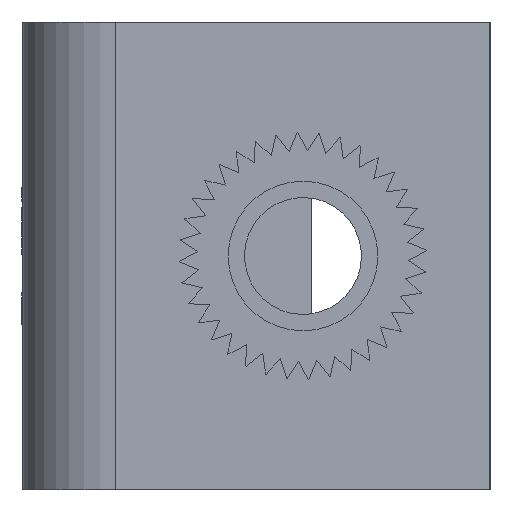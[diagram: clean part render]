
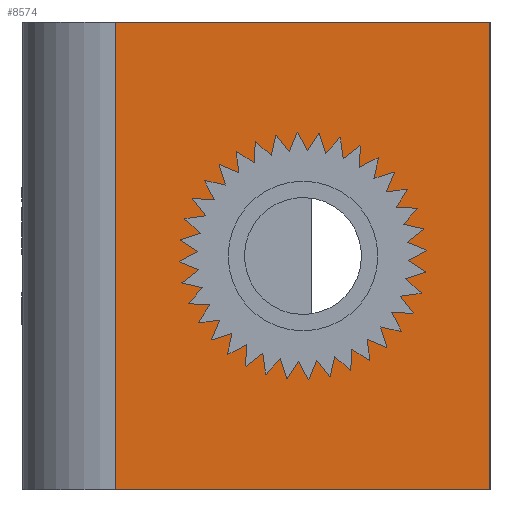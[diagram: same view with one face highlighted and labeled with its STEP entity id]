
A CAD part, left-side view. The second image highlights one B-rep face of the part: STEP entity #8574.
In plain terms, the highlighted planar face has unit normal (-1, 0, 0) as drawn and (1, 0, 0) by its records, which use the part's own axes.
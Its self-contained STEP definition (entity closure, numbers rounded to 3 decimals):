
#538 = VECTOR ( 'NONE', #6733, 1000. ) ;
#593 = LINE ( 'NONE', #8622, #5195 ) ;
#619 = AXIS2_PLACEMENT_3D ( 'NONE', #732, #3496, #7896 ) ;
#732 = CARTESIAN_POINT ( 'NONE',  ( 0., 6., 5. ) ) ;
#1110 = EDGE_LOOP ( 'NONE', ( #7832, #7541, #3333, #4967 ) ) ;
#1118 = CARTESIAN_POINT ( 'NONE',  ( 0., 6., 5. ) ) ;
#1179 = DIRECTION ( 'NONE',  ( 0., 0., -1. ) ) ;
#1220 = LINE ( 'NONE', #9236, #4892 ) ;
#1829 = CARTESIAN_POINT ( 'NONE',  ( 0., 2., 10. ) ) ;
#2133 = CARTESIAN_POINT ( 'NONE',  ( 0., 10., 10. ) ) ;
#2391 = LINE ( 'NONE', #3707, #538 ) ;
#2664 = FACE_OUTER_BOUND ( 'NONE', #1110, .T. ) ;
#2832 = EDGE_CURVE ( 'NONE', #5486, #3103, #3661, .T. ) ;
#2852 = CARTESIAN_POINT ( 'NONE',  ( 0., 6., 6.6 ) ) ;
#2876 = VERTEX_POINT ( 'NONE', #3683 ) ;
#2908 = EDGE_CURVE ( 'NONE', #3103, #5486, #6264, .T. ) ;
#2933 = EDGE_LOOP ( 'NONE', ( #3495, #8229 ) ) ;
#3103 = VERTEX_POINT ( 'NONE', #9091 ) ;
#3333 = ORIENTED_EDGE ( 'NONE', *, *, #5835, .F. ) ;
#3439 = VECTOR ( 'NONE', #5504, 1000. ) ;
#3495 = ORIENTED_EDGE ( 'NONE', *, *, #2908, .F. ) ;
#3496 = DIRECTION ( 'NONE',  ( 1., 0., 0. ) ) ;
#3661 = CIRCLE ( 'NONE', #5046, 1.6 ) ;
#3679 = VERTEX_POINT ( 'NONE', #2133 ) ;
#3683 = CARTESIAN_POINT ( 'NONE',  ( 0., 2., 0. ) ) ;
#3707 = CARTESIAN_POINT ( 'NONE',  ( 0., 0., 0. ) ) ;
#3800 = FACE_BOUND ( 'NONE', #2933, .T. ) ;
#3993 = DIRECTION ( 'NONE',  ( -1., 0., 0. ) ) ;
#4446 = EDGE_CURVE ( 'NONE', #5879, #2876, #7073, .T. ) ;
#4892 = VECTOR ( 'NONE', #1179, 1000. ) ;
#4967 = ORIENTED_EDGE ( 'NONE', *, *, #4446, .T. ) ;
#5046 = AXIS2_PLACEMENT_3D ( 'NONE', #1118, #5466, #8384 ) ;
#5071 = EDGE_CURVE ( 'NONE', #2876, #8148, #2391, .T. ) ;
#5195 = VECTOR ( 'NONE', #6332, 1000. ) ;
#5466 = DIRECTION ( 'NONE',  ( 1., 0., 0. ) ) ;
#5486 = VERTEX_POINT ( 'NONE', #2852 ) ;
#5504 = DIRECTION ( 'NONE',  ( 0., 0., -1. ) ) ;
#5835 = EDGE_CURVE ( 'NONE', #5879, #3679, #593, .T. ) ;
#5879 = VERTEX_POINT ( 'NONE', #7136 ) ;
#6264 = CIRCLE ( 'NONE', #619, 1.6 ) ;
#6332 = DIRECTION ( 'NONE',  ( 0., 1., 0. ) ) ;
#6342 = PLANE ( 'NONE',  #7852 ) ;
#6531 = EDGE_CURVE ( 'NONE', #3679, #8148, #1220, .T. ) ;
#6733 = DIRECTION ( 'NONE',  ( 0., 1., 0. ) ) ;
#6965 = DIRECTION ( 'NONE',  ( 0., 0., 1. ) ) ;
#7073 = LINE ( 'NONE', #1829, #3439 ) ;
#7136 = CARTESIAN_POINT ( 'NONE',  ( 0., 2., 10. ) ) ;
#7541 = ORIENTED_EDGE ( 'NONE', *, *, #6531, .F. ) ;
#7601 = CARTESIAN_POINT ( 'NONE',  ( 0., 10., 0. ) ) ;
#7832 = ORIENTED_EDGE ( 'NONE', *, *, #5071, .T. ) ;
#7852 = AXIS2_PLACEMENT_3D ( 'NONE', #9251, #3993, #6965 ) ;
#7896 = DIRECTION ( 'NONE',  ( 0., 0., -1. ) ) ;
#8148 = VERTEX_POINT ( 'NONE', #7601 ) ;
#8229 = ORIENTED_EDGE ( 'NONE', *, *, #2832, .F. ) ;
#8384 = DIRECTION ( 'NONE',  ( 0., 0., -1. ) ) ;
#8574 = ADVANCED_FACE ( 'NONE', ( #3800, #2664 ), #6342, .F. ) ;
#8622 = CARTESIAN_POINT ( 'NONE',  ( 0., 0., 10. ) ) ;
#9091 = CARTESIAN_POINT ( 'NONE',  ( 0., 6., 3.4 ) ) ;
#9236 = CARTESIAN_POINT ( 'NONE',  ( 0., 10., 10. ) ) ;
#9251 = CARTESIAN_POINT ( 'NONE',  ( 0., 0., 10. ) ) ;
